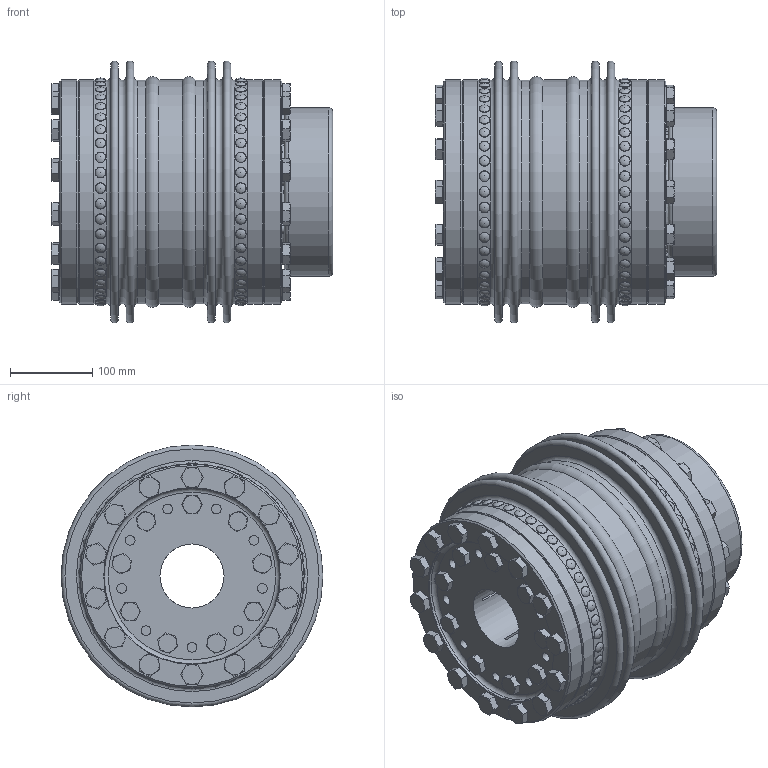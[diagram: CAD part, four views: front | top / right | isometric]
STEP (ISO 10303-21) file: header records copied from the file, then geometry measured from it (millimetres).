
FILE_DESCRIPTION(/* description */ ('Unknown'),/* implementation_level */ '2;1');
FILE_NAME(/* name */ 'KXL 12 A-B',/* time_stamp */ '2020-07-03T12:19:44+02:00',/* author */ ('Unknown'),/* organization */ ('Unknown'),/* preprocessor_version */ 'ST-DEVELOPER v16.7',/* originating_system */ 'DEX',/* authorisation */ $);
FILE_SCHEMA (('AUTOMOTIVE_DESIGN {1 0 10303 214 3 1 1}'));
Length unit declared in the file: millimetre
Products named in the file (1): KXL 12 A-B2
Bounding box: 342.9 x 319 x 319 mm (x, y, z)
Volume: 7201184.3 mm3; surface area: 1349184.9 mm2
Topology: 1 solids, 48 shells, 1724 faces, 3785 edges, 2445 vertices
Faces by surface type: plane 711, cylinder 389, cone 320, torus 304
Full cylindrical faces by diameter (mm): 6.4 x180, 11.835 x18, 12 x18, 14 x18, 15 x18, 16 x28, 17 x28, 20.5 x18, 22.5 x28, 78 x2, 202 x2, 205 x2, 208 x2, 214 x5, 256.5 x2, 268.208 x2, 268.906 x1, 272 x2, 272.208 x2, 272.906 x1, 273 x4
Entity records: 42680 total; most frequent: CARTESIAN_POINT 10049, DIRECTION 6618, ORIENTED_EDGE 5328, FACE_BOUND 2992, AXIS2_PLACEMENT_3D 2977, EDGE_LOOP 2884, EDGE_CURVE 2664, VERTEX_POINT 2156
